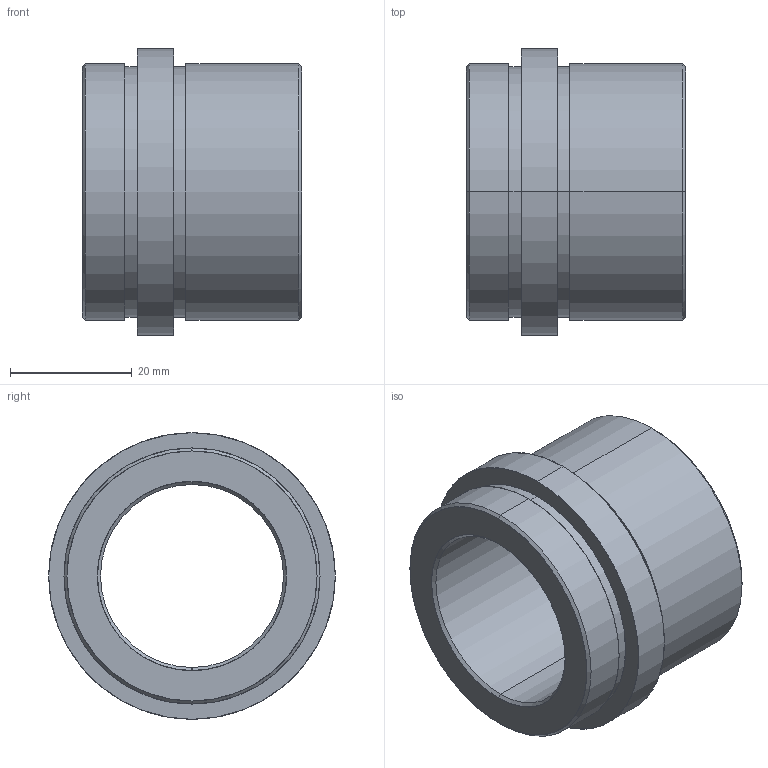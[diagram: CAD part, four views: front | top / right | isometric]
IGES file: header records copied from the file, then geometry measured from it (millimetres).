
Start section: SolidWorks IGES FILE using analytic representation for surfaces
Global section: file name: D:\zzzzz\Delta\D21\30\D21 - 30x27.IGS; native system: SolidWorks 2004 by SolidWorks Corporation; preprocessor: Version 5.3; author: Hkn; date: 080326.192914; units: millimetre
Bounding box: 36 x 47 x 47 mm (x, y, z)
Surface area: 10409.1 mm2 (no closed solid volume)
Topology: 0 solids, 0 shells, 26 faces, 848 edges, 848 vertices
Faces by surface type: revolution 20, bspline 6
